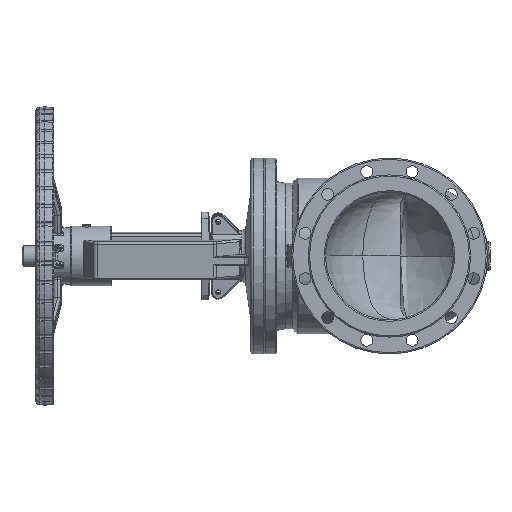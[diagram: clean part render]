
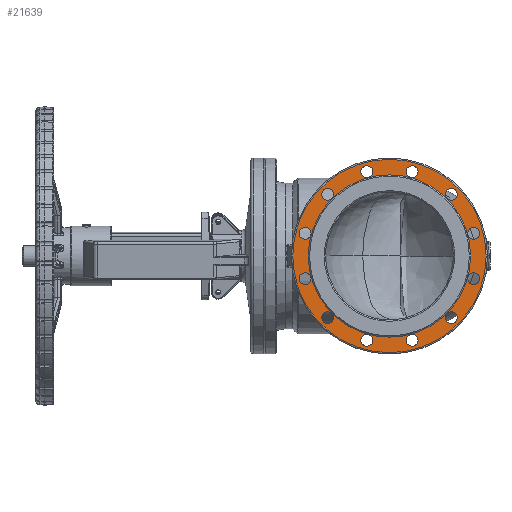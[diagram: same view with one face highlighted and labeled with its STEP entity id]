
A CAD part, left-side view. The second image highlights one B-rep face of the part: STEP entity #21639.
In plain terms, the highlighted planar face has unit normal (-1, 0, 0).
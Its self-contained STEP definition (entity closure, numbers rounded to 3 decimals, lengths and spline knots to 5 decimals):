
#207=PLANE('',#23552);
#589=FACE_BOUND('',#5440,.T.);
#590=FACE_BOUND('',#5441,.T.);
#591=FACE_BOUND('',#5442,.T.);
#592=FACE_BOUND('',#5443,.T.);
#593=FACE_BOUND('',#5444,.T.);
#594=FACE_BOUND('',#5445,.T.);
#595=FACE_BOUND('',#5446,.T.);
#596=FACE_BOUND('',#5447,.T.);
#597=FACE_BOUND('',#5448,.T.);
#598=FACE_BOUND('',#5449,.T.);
#599=FACE_BOUND('',#5450,.T.);
#600=FACE_BOUND('',#5451,.T.);
#601=FACE_BOUND('',#5452,.T.);
#4003=FACE_OUTER_BOUND('',#5439,.T.);
#5439=EDGE_LOOP('',(#16607));
#5440=EDGE_LOOP('',(#16608));
#5441=EDGE_LOOP('',(#16609));
#5442=EDGE_LOOP('',(#16610));
#5443=EDGE_LOOP('',(#16611));
#5444=EDGE_LOOP('',(#16612));
#5445=EDGE_LOOP('',(#16613));
#5446=EDGE_LOOP('',(#16614));
#5447=EDGE_LOOP('',(#16615));
#5448=EDGE_LOOP('',(#16616));
#5449=EDGE_LOOP('',(#16617));
#5450=EDGE_LOOP('',(#16618));
#5451=EDGE_LOOP('',(#16619));
#5452=EDGE_LOOP('',(#16620));
#6734=CIRCLE('',#23366,0.014);
#6736=CIRCLE('',#23369,0.014);
#6738=CIRCLE('',#23372,0.014);
#6740=CIRCLE('',#23375,0.014);
#6742=CIRCLE('',#23378,0.014);
#6744=CIRCLE('',#23381,0.014);
#6746=CIRCLE('',#23384,0.014);
#6748=CIRCLE('',#23387,0.014);
#6750=CIRCLE('',#23390,0.014);
#6752=CIRCLE('',#23393,0.014);
#6754=CIRCLE('',#23396,0.014);
#6756=CIRCLE('',#23399,0.014);
#6781=CIRCLE('',#23437,0.1905);
#6785=CIRCLE('',#23443,0.227);
#9211=VERTEX_POINT('',#37861);
#9213=VERTEX_POINT('',#37867);
#9215=VERTEX_POINT('',#37873);
#9217=VERTEX_POINT('',#37879);
#9219=VERTEX_POINT('',#37885);
#9221=VERTEX_POINT('',#37891);
#9223=VERTEX_POINT('',#37897);
#9225=VERTEX_POINT('',#37903);
#9227=VERTEX_POINT('',#37909);
#9229=VERTEX_POINT('',#37915);
#9231=VERTEX_POINT('',#37921);
#9233=VERTEX_POINT('',#37927);
#9258=VERTEX_POINT('',#38003);
#9262=VERTEX_POINT('',#38015);
#11589=EDGE_CURVE('',#9211,#9211,#6734,.T.);
#11592=EDGE_CURVE('',#9213,#9213,#6736,.T.);
#11595=EDGE_CURVE('',#9215,#9215,#6738,.T.);
#11598=EDGE_CURVE('',#9217,#9217,#6740,.T.);
#11601=EDGE_CURVE('',#9219,#9219,#6742,.T.);
#11604=EDGE_CURVE('',#9221,#9221,#6744,.T.);
#11607=EDGE_CURVE('',#9223,#9223,#6746,.T.);
#11610=EDGE_CURVE('',#9225,#9225,#6748,.T.);
#11613=EDGE_CURVE('',#9227,#9227,#6750,.T.);
#11616=EDGE_CURVE('',#9229,#9229,#6752,.T.);
#11619=EDGE_CURVE('',#9231,#9231,#6754,.T.);
#11622=EDGE_CURVE('',#9233,#9233,#6756,.T.);
#11659=EDGE_CURVE('',#9258,#9258,#6781,.T.);
#11665=EDGE_CURVE('',#9262,#9262,#6785,.T.);
#16607=ORIENTED_EDGE('',*,*,#11665,.T.);
#16608=ORIENTED_EDGE('',*,*,#11659,.T.);
#16609=ORIENTED_EDGE('',*,*,#11589,.F.);
#16610=ORIENTED_EDGE('',*,*,#11592,.F.);
#16611=ORIENTED_EDGE('',*,*,#11595,.F.);
#16612=ORIENTED_EDGE('',*,*,#11598,.F.);
#16613=ORIENTED_EDGE('',*,*,#11601,.F.);
#16614=ORIENTED_EDGE('',*,*,#11604,.F.);
#16615=ORIENTED_EDGE('',*,*,#11607,.F.);
#16616=ORIENTED_EDGE('',*,*,#11610,.F.);
#16617=ORIENTED_EDGE('',*,*,#11613,.F.);
#16618=ORIENTED_EDGE('',*,*,#11616,.T.);
#16619=ORIENTED_EDGE('',*,*,#11619,.F.);
#16620=ORIENTED_EDGE('',*,*,#11622,.F.);
#21639=ADVANCED_FACE('',(#4003,#589,#590,#591,#592,#593,#594,#595,#596,
#597,#598,#599,#600,#601),#207,.T.);
#23366=AXIS2_PLACEMENT_3D('',#37863,#27041,#27042);
#23369=AXIS2_PLACEMENT_3D('',#37869,#27048,#27049);
#23372=AXIS2_PLACEMENT_3D('',#37875,#27055,#27056);
#23375=AXIS2_PLACEMENT_3D('',#37881,#27062,#27063);
#23378=AXIS2_PLACEMENT_3D('',#37887,#27069,#27070);
#23381=AXIS2_PLACEMENT_3D('',#37893,#27076,#27077);
#23384=AXIS2_PLACEMENT_3D('',#37899,#27083,#27084);
#23387=AXIS2_PLACEMENT_3D('',#37905,#27090,#27091);
#23390=AXIS2_PLACEMENT_3D('',#37911,#27097,#27098);
#23393=AXIS2_PLACEMENT_3D('',#37917,#27104,#27105);
#23396=AXIS2_PLACEMENT_3D('',#37923,#27111,#27112);
#23399=AXIS2_PLACEMENT_3D('',#37929,#27118,#27119);
#23437=AXIS2_PLACEMENT_3D('',#38004,#27206,#27207);
#23443=AXIS2_PLACEMENT_3D('',#38016,#27220,#27221);
#23552=AXIS2_PLACEMENT_3D('',#73055,#27470,#27471);
#27041=DIRECTION('center_axis',(-1.,0.,0.));
#27042=DIRECTION('ref_axis',(0.,0.866,0.5));
#27048=DIRECTION('center_axis',(-1.,0.,0.));
#27049=DIRECTION('ref_axis',(0.,0.,1.));
#27055=DIRECTION('center_axis',(-1.,0.,0.));
#27056=DIRECTION('ref_axis',(0.,0.,-1.));
#27062=DIRECTION('center_axis',(-1.,0.,0.));
#27063=DIRECTION('ref_axis',(0.,-0.866,0.5));
#27069=DIRECTION('center_axis',(-1.,0.,0.));
#27070=DIRECTION('ref_axis',(0.,-1.,0.));
#27076=DIRECTION('center_axis',(-1.,0.,0.));
#27077=DIRECTION('ref_axis',(0.,-0.866,-0.5));
#27083=DIRECTION('center_axis',(-1.,0.,0.));
#27084=DIRECTION('ref_axis',(0.,-0.5,-0.866));
#27090=DIRECTION('center_axis',(-1.,0.,0.));
#27091=DIRECTION('ref_axis',(0.,-0.5,0.866));
#27097=DIRECTION('center_axis',(-1.,0.,0.));
#27098=DIRECTION('ref_axis',(0.,0.5,-0.866));
#27104=DIRECTION('center_axis',(1.,0.,0.));
#27105=DIRECTION('ref_axis',(0.,0.866,-0.5));
#27111=DIRECTION('center_axis',(-1.,0.,0.));
#27112=DIRECTION('ref_axis',(0.,0.5,0.866));
#27118=DIRECTION('center_axis',(-1.,0.,0.));
#27119=DIRECTION('ref_axis',(0.,1.,0.));
#27206=DIRECTION('center_axis',(1.,0.,0.));
#27207=DIRECTION('ref_axis',(0.,1.,0.));
#27220=DIRECTION('center_axis',(-1.,0.,0.));
#27221=DIRECTION('ref_axis',(0.,-1.,0.));
#27470=DIRECTION('center_axis',(-1.,0.,0.));
#27471=DIRECTION('ref_axis',(0.,0.,1.));
#37861=CARTESIAN_POINT('',(-0.422,0.19801,0.03906));
#37863=CARTESIAN_POINT('Origin',(-0.422,0.19801,0.05306));
#37867=CARTESIAN_POINT('',(-0.422,0.05306,0.18401));
#37869=CARTESIAN_POINT('Origin',(-0.422,0.05306,0.19801));
#37873=CARTESIAN_POINT('',(-0.422,-0.05306,-0.21201));
#37875=CARTESIAN_POINT('Origin',(-0.422,-0.05306,-0.19801));
#37879=CARTESIAN_POINT('',(-0.422,-0.14496,0.13096));
#37881=CARTESIAN_POINT('Origin',(-0.422,-0.14496,0.14496));
#37885=CARTESIAN_POINT('',(-0.422,-0.19801,0.03906));
#37887=CARTESIAN_POINT('Origin',(-0.422,-0.19801,0.05306));
#37891=CARTESIAN_POINT('',(-0.422,-0.19801,-0.06706));
#37893=CARTESIAN_POINT('Origin',(-0.422,-0.19801,-0.05306));
#37897=CARTESIAN_POINT('',(-0.422,-0.14496,-0.15896));
#37899=CARTESIAN_POINT('Origin',(-0.422,-0.14496,-0.14496));
#37903=CARTESIAN_POINT('',(-0.422,-0.05306,0.18401));
#37905=CARTESIAN_POINT('Origin',(-0.422,-0.05306,0.19801));
#37909=CARTESIAN_POINT('',(-0.422,0.05306,-0.21201));
#37911=CARTESIAN_POINT('Origin',(-0.422,0.05306,-0.19801));
#37915=CARTESIAN_POINT('',(-0.422,0.14496,-0.15896));
#37917=CARTESIAN_POINT('Origin',(-0.422,0.14496,-0.14496));
#37921=CARTESIAN_POINT('',(-0.422,0.14496,0.13096));
#37923=CARTESIAN_POINT('Origin',(-0.422,0.14496,0.14496));
#37927=CARTESIAN_POINT('',(-0.422,0.19801,-0.06706));
#37929=CARTESIAN_POINT('Origin',(-0.422,0.19801,-0.05306));
#38003=CARTESIAN_POINT('',(-0.422,-0.1905,0.));
#38004=CARTESIAN_POINT('Origin',(-0.422,0.,0.));
#38015=CARTESIAN_POINT('',(-0.422,0.227,0.));
#38016=CARTESIAN_POINT('Origin',(-0.422,0.,0.));
#73055=CARTESIAN_POINT('Origin',(-0.422,0.23,0.));
